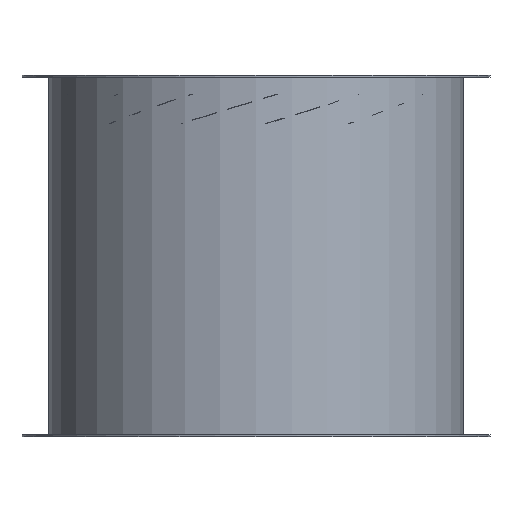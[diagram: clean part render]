
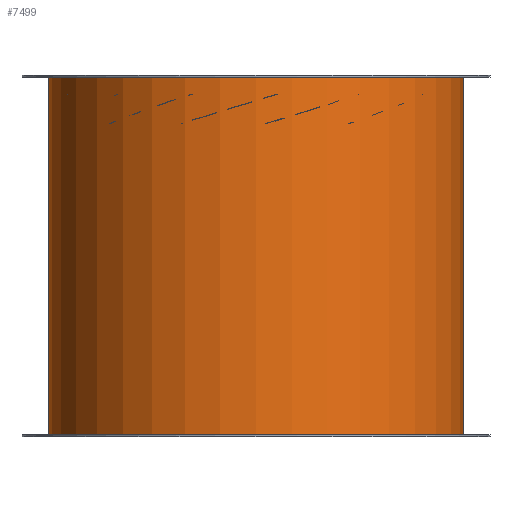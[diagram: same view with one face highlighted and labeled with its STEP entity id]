
A CAD part, front view. The second image highlights one B-rep face of the part: STEP entity #7499.
In plain terms, the highlighted cylindrical face has radius 319 mm (diameter 638 mm), a full revolution.
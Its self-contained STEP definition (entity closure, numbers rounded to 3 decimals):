
#718=FACE_OUTER_BOUND('',#1374,.T.);
#836=FACE_BOUND('',#1375,.T.);
#837=FACE_BOUND('',#1376,.T.);
#1374=EDGE_LOOP('',(#6825,#6826,#6827,#6828));
#1375=EDGE_LOOP('',(#6829,#6830));
#1376=EDGE_LOOP('',(#6831,#6832,#6833,#6834));
#1620=CIRCLE('',#8006,319.);
#1621=CIRCLE('',#8008,319.);
#1749=CIRCLE('',#8232,319.);
#1752=CIRCLE('',#8237,319.);
#1796=B_SPLINE_CURVE_WITH_KNOTS('',3,(#11865,#11866,#11867,#11868,#11869,
#11870,#11871,#11872,#11873,#11874),.UNSPECIFIED.,.F.,.F.,(4,2,2,2,4),(0.,
0.28,0.56,0.899,1.239),
 .UNSPECIFIED.);
#1797=B_SPLINE_CURVE_WITH_KNOTS('',3,(#11875,#11876,#11877,#11878,#11879,
#11880,#11881,#11882,#11883,#11884,#11885,#11886,#11887,#11888,#11889,#11890,
#11891,#11892,#11893,#11894,#11895,#11896,#11897,#11898,#11899,#11900),
 .UNSPECIFIED.,.F.,.F.,(4,2,2,2,2,2,2,2,2,2,2,2,4),(1.239,1.583,
1.928,2.209,2.489,2.77,3.051,
3.395,3.74,4.079,4.419,4.699,
4.978),.UNSPECIFIED.);
#2336=LINE('',#11965,#2873);
#2344=LINE('',#11980,#2881);
#2456=LINE('',#14195,#2993);
#2873=VECTOR('',#9623,10.);
#2881=VECTOR('',#9635,10.);
#2993=VECTOR('',#10217,319.);
#3460=VERTEX_POINT('',#11863);
#3461=VERTEX_POINT('',#11864);
#3469=VERTEX_POINT('',#11961);
#3471=VERTEX_POINT('',#11964);
#3475=VERTEX_POINT('',#11976);
#3476=VERTEX_POINT('',#11978);
#3663=VERTEX_POINT('',#14182);
#3666=VERTEX_POINT('',#14191);
#4339=EDGE_CURVE('',#3460,#3461,#1796,.T.);
#4340=EDGE_CURVE('',#3461,#3460,#1797,.T.);
#4355=EDGE_CURVE('',#3471,#3469,#2336,.T.);
#4363=EDGE_CURVE('',#3475,#3476,#2344,.T.);
#4364=EDGE_CURVE('',#3469,#3475,#1620,.T.);
#4365=EDGE_CURVE('',#3476,#3471,#1621,.T.);
#4723=EDGE_CURVE('',#3663,#3663,#1749,.T.);
#4727=EDGE_CURVE('',#3666,#3666,#1752,.T.);
#4728=EDGE_CURVE('',#3666,#3663,#2456,.T.);
#6825=ORIENTED_EDGE('',*,*,#4727,.T.);
#6826=ORIENTED_EDGE('',*,*,#4728,.T.);
#6827=ORIENTED_EDGE('',*,*,#4723,.T.);
#6828=ORIENTED_EDGE('',*,*,#4728,.F.);
#6829=ORIENTED_EDGE('',*,*,#4339,.T.);
#6830=ORIENTED_EDGE('',*,*,#4340,.T.);
#6831=ORIENTED_EDGE('',*,*,#4363,.T.);
#6832=ORIENTED_EDGE('',*,*,#4365,.T.);
#6833=ORIENTED_EDGE('',*,*,#4355,.T.);
#6834=ORIENTED_EDGE('',*,*,#4364,.T.);
#6958=CYLINDRICAL_SURFACE('',#8239,319.);
#7499=ADVANCED_FACE('',(#718,#836,#837),#6958,.T.);
#8006=AXIS2_PLACEMENT_3D('',#11982,#9638,#9639);
#8008=AXIS2_PLACEMENT_3D('',#11984,#9642,#9643);
#8232=AXIS2_PLACEMENT_3D('',#14183,#10200,#10201);
#8237=AXIS2_PLACEMENT_3D('',#14192,#10211,#10212);
#8239=AXIS2_PLACEMENT_3D('',#14194,#10215,#10216);
#9623=DIRECTION('',(0.,0.,-1.));
#9635=DIRECTION('',(0.,0.,1.));
#9638=DIRECTION('center_axis',(0.,0.,-1.));
#9639=DIRECTION('ref_axis',(-1.,0.,0.));
#9642=DIRECTION('center_axis',(0.,0.,1.));
#9643=DIRECTION('ref_axis',(-1.,0.,0.));
#10200=DIRECTION('center_axis',(0.,0.,1.));
#10201=DIRECTION('ref_axis',(-1.,0.,0.));
#10211=DIRECTION('center_axis',(0.,0.,-1.));
#10212=DIRECTION('ref_axis',(-1.,0.,0.));
#10215=DIRECTION('center_axis',(0.,0.,1.));
#10216=DIRECTION('ref_axis',(-1.,0.,0.));
#10217=DIRECTION('',(0.,0.,-1.));
#11863=CARTESIAN_POINT('',(-168.056,271.143,-173.));
#11864=CARTESIAN_POINT('',(-175.556,266.348,-165.5));
#11865=CARTESIAN_POINT('Ctrl Pts',(-168.056,271.143,-173.));
#11866=CARTESIAN_POINT('Ctrl Pts',(-168.056,271.143,-172.067));
#11867=CARTESIAN_POINT('Ctrl Pts',(-168.241,271.028,-171.084));
#11868=CARTESIAN_POINT('Ctrl Pts',(-168.96,270.58,-169.303));
#11869=CARTESIAN_POINT('Ctrl Pts',(-169.492,270.248,-168.504));
#11870=CARTESIAN_POINT('Ctrl Pts',(-170.787,269.432,-167.118));
#11871=CARTESIAN_POINT('Ctrl Pts',(-171.677,268.867,-166.497));
#11872=CARTESIAN_POINT('Ctrl Pts',(-173.589,267.636,-165.688));
#11873=CARTESIAN_POINT('Ctrl Pts',(-174.611,266.971,-165.5));
#11874=CARTESIAN_POINT('Ctrl Pts',(-175.556,266.348,-165.5));
#11875=CARTESIAN_POINT('Ctrl Pts',(-175.556,266.348,-165.5));
#11876=CARTESIAN_POINT('Ctrl Pts',(-176.514,265.716,-165.5));
#11877=CARTESIAN_POINT('Ctrl Pts',(-177.543,265.03,-165.694));
#11878=CARTESIAN_POINT('Ctrl Pts',(-179.458,263.737,-166.511));
#11879=CARTESIAN_POINT('Ctrl Pts',(-180.345,263.13,-167.135));
#11880=CARTESIAN_POINT('Ctrl Pts',(-181.628,262.245,-168.518));
#11881=CARTESIAN_POINT('Ctrl Pts',(-182.155,261.879,-169.311));
#11882=CARTESIAN_POINT('Ctrl Pts',(-182.869,261.381,-171.083));
#11883=CARTESIAN_POINT('Ctrl Pts',(-183.056,261.25,-172.064));
#11884=CARTESIAN_POINT('Ctrl Pts',(-183.056,261.25,-173.936));
#11885=CARTESIAN_POINT('Ctrl Pts',(-182.869,261.381,-174.917));
#11886=CARTESIAN_POINT('Ctrl Pts',(-182.155,261.879,-176.689));
#11887=CARTESIAN_POINT('Ctrl Pts',(-181.628,262.245,-177.482));
#11888=CARTESIAN_POINT('Ctrl Pts',(-180.345,263.13,-178.865));
#11889=CARTESIAN_POINT('Ctrl Pts',(-179.458,263.737,-179.489));
#11890=CARTESIAN_POINT('Ctrl Pts',(-177.543,265.03,-180.306));
#11891=CARTESIAN_POINT('Ctrl Pts',(-176.514,265.716,-180.5));
#11892=CARTESIAN_POINT('Ctrl Pts',(-174.611,266.971,-180.5));
#11893=CARTESIAN_POINT('Ctrl Pts',(-173.589,267.636,-180.312));
#11894=CARTESIAN_POINT('Ctrl Pts',(-171.677,268.867,-179.503));
#11895=CARTESIAN_POINT('Ctrl Pts',(-170.787,269.432,-178.882));
#11896=CARTESIAN_POINT('Ctrl Pts',(-169.492,270.248,-177.496));
#11897=CARTESIAN_POINT('Ctrl Pts',(-168.96,270.58,-176.697));
#11898=CARTESIAN_POINT('Ctrl Pts',(-168.241,271.028,-174.916));
#11899=CARTESIAN_POINT('Ctrl Pts',(-168.056,271.143,-173.933));
#11900=CARTESIAN_POINT('Ctrl Pts',(-168.056,271.143,-173.));
#11961=CARTESIAN_POINT('',(-117.037,296.755,-265.5));
#11964=CARTESIAN_POINT('',(-117.037,296.755,-80.5));
#11965=CARTESIAN_POINT('',(-117.037,296.755,0.));
#11976=CARTESIAN_POINT('',(117.037,296.755,-265.5));
#11978=CARTESIAN_POINT('',(117.037,296.755,-80.5));
#11980=CARTESIAN_POINT('',(117.037,296.755,0.));
#11982=CARTESIAN_POINT('Origin',(0.,0.,-265.5));
#11984=CARTESIAN_POINT('Origin',(0.,0.,-80.5));
#14182=CARTESIAN_POINT('',(319.,0.,-274.5));
#14183=CARTESIAN_POINT('Origin',(0.,0.,-274.5));
#14191=CARTESIAN_POINT('',(319.,0.,274.5));
#14192=CARTESIAN_POINT('Origin',(0.,0.,274.5));
#14194=CARTESIAN_POINT('Origin',(0.,0.,0.));
#14195=CARTESIAN_POINT('',(319.,0.,0.));
